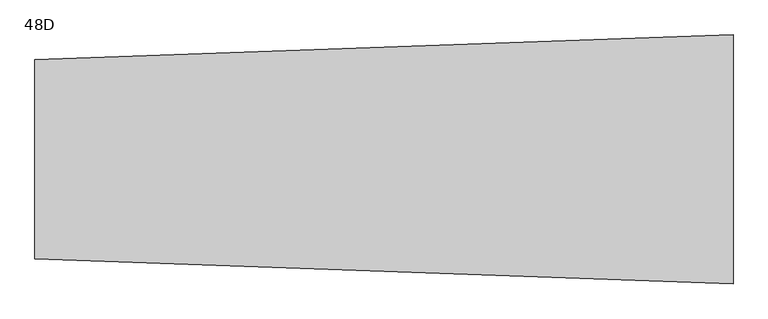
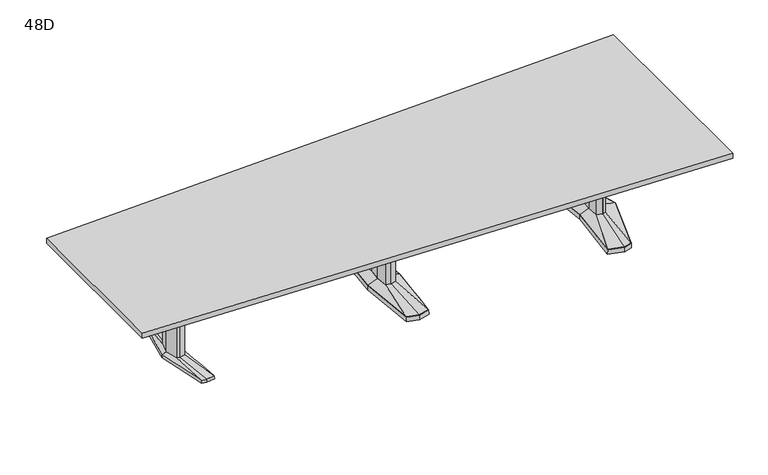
"""IFC4 building model written with IfcOpenShell, lengths in millimetres: furniture geometry, Coalesse_AM_Table_Conference_ETable2_Trapezoid_14ft_AluminiumBase : 48D."""

import ifcopenshell
import ifcopenshell.guid

model = None  # the IFC model being written
_history = None  # IfcOwnerHistory: only IFC2X3 demands one
_inside = {}  # id of a spatial element -> (the spatial element, [elements in it])
_under = {}  # id of a project, library or spatial element -> (it, [spatial elements below it])
_declared = {}  # id of a project -> (the project, [libraries it declares])
_typed = {}  # id of a type object -> (the type object, [elements of that type])
_made_of = {}  # id of a material, layer set ... -> (it, [elements and type objects made of it])


def new_model(schema):
    """Start an empty IFC model of exactly this schema.

    Asked for "IFC4X3", IfcOpenShell would pick the latest addendum, in which some entities
    have other attributes; the version numbers below select the first issue.
    IFC2X3 requires an IfcOwnerHistory on every rooted entity: one is made here for all.
    """
    global model, _history
    if schema == "IFC4X3":
        model = ifcopenshell.file(schema_version=(4, 3, 0, 0))
    else:
        model = ifcopenshell.file(schema=schema)
    _inside.clear()
    _under.clear()
    _declared.clear()
    _typed.clear()
    _made_of.clear()
    _history = None
    if model.schema == "IFC2X3":
        org = make("IfcOrganization", Name="unknown")
        user = make(
            "IfcPersonAndOrganization",
            ThePerson=make("IfcPerson", FamilyName="unknown"),
            TheOrganization=org,
        )
        app = make(
            "IfcApplication",
            ApplicationDeveloper=org,
            Version="unknown",
            ApplicationFullName="unknown",
            ApplicationIdentifier="unknown",
        )
        _history = make(
            "IfcOwnerHistory",
            OwningUser=user,
            OwningApplication=app,
            ChangeAction="ADDED",
            CreationDate=0,
        )
    return model


def make(cls, **values):
    """One entity of the class cls with the attributes given. An attribute that is None is left unset."""
    return model.create_entity(
        cls, **{name: value for name, value in values.items() if value is not None}
    )


def rooted(cls, **values):
    """An entity with a GlobalId (a new one), such as an element, a storey or a relation."""
    return make(cls, GlobalId=ifcopenshell.guid.new(), OwnerHistory=_history, **values)


def si_unit(unit_type, name, prefix=None):
    """IfcSIUnit, for example si_unit("LENGTHUNIT", "METRE", prefix="MILLI")."""
    return make("IfcSIUnit", UnitType=unit_type, Prefix=prefix, Name=name)


def assignment(units):
    """IfcUnitAssignment: the units of a project."""
    return None if units is None else make("IfcUnitAssignment", Units=units)


def point(xyz):
    """IfcCartesianPoint."""
    return None if xyz is None else make("IfcCartesianPoint", Coordinates=xyz)


def direction(xyz):
    """IfcDirection."""
    return None if xyz is None else make("IfcDirection", DirectionRatios=xyz)


def frame(location, z_axis=None, x_axis=None):
    """IfcAxis2Placement3D, a coordinate frame: its origin and axes. An axis left out is left unset."""
    return make(
        "IfcAxis2Placement3D",
        Location=point(location),
        Axis=direction(z_axis),
        RefDirection=direction(x_axis),
    )


def origin():
    """The frame at (0, 0, 0) with its axes left unset."""
    return frame((0.0, 0.0, 0.0))


def place(relative_to, where):
    """IfcLocalPlacement: puts the frame where relative to a parent placement (None: the world)."""
    return make(
        "IfcLocalPlacement", PlacementRelTo=relative_to, RelativePlacement=where
    )


def context(
    kind, dimensions, precision=None, world=None, true_north=None, identifier=None
):
    """IfcGeometricRepresentationContext, for example the 3D "Model" context."""
    return make(
        "IfcGeometricRepresentationContext",
        ContextIdentifier=identifier,
        ContextType=kind,
        CoordinateSpaceDimension=dimensions,
        Precision=precision,
        WorldCoordinateSystem=world,
        TrueNorth=true_north,
    )


def project(units=None, contexts=None):
    """IfcProject with its units and contexts."""
    return rooted(
        "IfcProject",
        Name="project",
        RepresentationContexts=contexts,
        UnitsInContext=assignment(units),
    )


def spatial(cls, under=None, at=None, **own):
    """A site, building, storey or space (cls), placed at a placement, below another one or the project."""
    s = rooted(cls, ObjectPlacement=at, **own)
    if under is not None:
        _under.setdefault(under.id(), (under, []))[1].append(s)
    return s


def polyline(points):
    """IfcPolyline through the points."""
    return make("IfcPolyline", Points=[point(p) for p in points])


def outline(outer, holes=None, kind="AREA"):
    """IfcArbitraryClosedProfileDef: a profile drawn as a closed curve; with holes, ...WithVoids."""
    if holes is None:
        return make("IfcArbitraryClosedProfileDef", ProfileType=kind, OuterCurve=outer)
    return make(
        "IfcArbitraryProfileDefWithVoids",
        ProfileType=kind,
        OuterCurve=outer,
        InnerCurves=holes,
    )


def extrude(swept, where, along, depth):
    """IfcExtrudedAreaSolid: the profile swept, set in the frame where, extruded along a direction by depth."""
    return make(
        "IfcExtrudedAreaSolid",
        SweptArea=swept,
        Position=where,
        ExtrudedDirection=direction(along),
        Depth=depth,
    )


def faces_of(points, faces, orient=None, outer=None):
    """IfcFace entities. A face is a list of loops; a loop is a list of indices into points, from 0.

    orient and outer hold one flag for each loop. By default every Orientation is true, the
    first loop of a face is its IfcFaceOuterBound and the others are IfcFaceBound.
    """
    made = []
    for i, loops in enumerate(faces):
        bounds = []
        for j, loop in enumerate(loops):
            is_outer = j == 0 if outer is None else outer[i][j]
            bounds.append(
                make(
                    "IfcFaceOuterBound" if is_outer else "IfcFaceBound",
                    Bound=make("IfcPolyLoop", Polygon=[points[k] for k in loop]),
                    Orientation=True if orient is None else orient[i][j],
                )
            )
        made.append(make("IfcFace", Bounds=bounds))
    return made


def faceted_brep(points, faces, orient=None, outer=None, voids=None):
    """IfcFacetedBrep: a solid bounded by flat faces; with voids (closed shells), ...WithVoids."""
    shared = [point(p) for p in points]
    hull = make("IfcClosedShell", CfsFaces=faces_of(shared, faces, orient, outer))
    if voids is None:
        return make("IfcFacetedBrep", Outer=hull)
    return make(
        "IfcFacetedBrepWithVoids",
        Outer=hull,
        Voids=[
            make(cls, CfsFaces=faces_of(shared, fs, o, b)) for cls, fs, o, b in voids
        ],
    )


def shape(context_of_items, identifier, shape_type, items):
    """IfcShapeRepresentation: the items that make up one representation, for example the "Body"."""
    return make(
        "IfcShapeRepresentation",
        ContextOfItems=context_of_items,
        RepresentationIdentifier=identifier,
        RepresentationType=shape_type,
        Items=items,
    )


def source(mapping_origin, context_of_items, identifier, shape_type, items):
    """IfcRepresentationMap: a shape defined once, which mapped items show again and again."""
    return make(
        "IfcRepresentationMap",
        MappingOrigin=mapping_origin,
        MappedRepresentation=shape(context_of_items, identifier, shape_type, items),
    )


def transform(
    local_origin,
    x_axis=None,
    y_axis=None,
    z_axis=None,
    scale=None,
    scale2=None,
    scale3=None,
    uniform=True,
):
    """IfcCartesianTransformationOperator3D, or its non-uniform kind. x_axis, y_axis, z_axis: its Axis1, 2, 3."""
    if uniform:
        return make(
            "IfcCartesianTransformationOperator3D",
            Axis1=direction(x_axis),
            Axis2=direction(y_axis),
            LocalOrigin=point(local_origin),
            Scale=scale,
            Axis3=direction(z_axis),
        )
    return make(
        "IfcCartesianTransformationOperator3DnonUniform",
        Axis1=direction(x_axis),
        Axis2=direction(y_axis),
        LocalOrigin=point(local_origin),
        Scale=scale,
        Axis3=direction(z_axis),
        Scale2=scale2,
        Scale3=scale3,
    )


def mapped(mapping_source, mapping_target):
    """IfcMappedItem: shows the shape of a source again, moved by a transform."""
    return make(
        "IfcMappedItem", MappingSource=mapping_source, MappingTarget=mapping_target
    )


def made_of(thing, what):
    """Note that an element or type object is made of a material, layer set ...; save() writes the relation."""
    if what is not None:
        _made_of.setdefault(what.id(), (what, []))[1].append(thing)
    return thing


def element(
    cls,
    number,
    at=None,
    inside=None,
    cuts=None,
    type_object=None,
    material=None,
    context=None,
    identifier="Body",
    shape_type=None,
    held_by="IfcProductDefinitionShape",
    body=None,
    shapes=None,
    **own,
):
    """One element of the class cls, such as IfcWall. Its Tag is "e" and its number.

    at: its placement. inside: the storey or other place that contains it. cuts: it is an
    opening in that element (IfcRelVoidsElement). A single representation is given by context,
    identifier, shape_type and body (its items); several are given by shapes. held_by: the class
    of the entity that holds the representations. save() writes the other relations.
    """
    e = rooted(cls, Tag="e%d" % number, ObjectPlacement=at, **own)
    if body is not None:
        shapes = [shape(context, identifier, shape_type, body)]
    if shapes is not None:
        e.Representation = make(held_by, Representations=shapes)
    if inside is not None:
        _inside.setdefault(inside.id(), (inside, []))[1].append(e)
    if cuts is not None:
        rooted(
            "IfcRelVoidsElement", RelatingBuildingElement=cuts, RelatedOpeningElement=e
        )
    if type_object is not None:
        _typed.setdefault(type_object.id(), (type_object, []))[1].append(e)
    return made_of(e, material)


def aggregate(whole, parts):
    """IfcRelAggregates: a whole, such as a stair, and the parts it consists of."""
    return rooted("IfcRelAggregates", RelatingObject=whole, RelatedObjects=parts)


def save(model, path):
    """Write the relations noted so far, then the file.

    IfcRelAggregates (storeys below a building ...), IfcRelContainedInSpatialStructure (elements
    in a storey), IfcRelDefinesByType, IfcRelAssociatesMaterial and IfcRelDeclares: one each for
    every whole, place, type object, material and project.
    """
    for whole, parts in _under.values():
        aggregate(whole, parts)
    for where, things in _inside.values():
        rooted(
            "IfcRelContainedInSpatialStructure",
            RelatedElements=things,
            RelatingStructure=where,
        )
    for kind, things in _typed.values():
        rooted("IfcRelDefinesByType", RelatedObjects=things, RelatingType=kind)
    for what, things in _made_of.values():
        rooted("IfcRelAssociatesMaterial", RelatedObjects=things, RelatingMaterial=what)
    for by, libraries in _declared.values():
        rooted("IfcRelDeclares", RelatingContext=by, RelatedDefinitions=libraries)
    model.write(path)


def plane_surface(at):
    """IfcPlane: the flat surface through the origin of the frame at, square to its z axis."""
    return make("IfcPlane", Position=at)


def spline_surface(u_degree, v_degree, points, u_multiplicities, v_multiplicities, u_knots, v_knots, weights=None):
    """IfcBSplineSurfaceWithKnots; with weights, IfcRationalBSplineSurfaceWithKnots. points: one row for each step in u."""
    own = dict(
        UDegree=u_degree,
        VDegree=v_degree,
        ControlPointsList=[[point(p) for p in row] for row in points],
        SurfaceForm="UNSPECIFIED",
        UClosed=False,
        VClosed=False,
        SelfIntersect=False,
        UMultiplicities=u_multiplicities,
        VMultiplicities=v_multiplicities,
        UKnots=u_knots,
        VKnots=v_knots,
        KnotSpec="UNSPECIFIED",
    )
    if weights is None:
        return make("IfcBSplineSurfaceWithKnots", **own)
    return make("IfcRationalBSplineSurfaceWithKnots", WeightsData=weights, **own)


def advanced_brep(points, edges, surfaces, faces):
    """IfcAdvancedBrep: a solid bounded by faces that lie on surfaces and meet in shared edges.

    An edge is (start, end): straight between two places in points (the first is 0);
    or (start, end, curve); or (start, end, curve, False) where it runs against its curve.
    A face is (place in surfaces, loops), or (place, loops, False) where it looks against
    its surface's normal. A loop lists edges by number (the first is 1), with a minus sign
    where the edge is run from its end to its start. The first loop is the outer one.
    """
    corners = [point(p) for p in points]
    vertices = [make("IfcVertexPoint", VertexGeometry=c) for c in corners]
    made = []
    for start, end, *more in edges:
        made.append(
            make(
                "IfcEdgeCurve",
                EdgeStart=vertices[start],
                EdgeEnd=vertices[end],
                EdgeGeometry=more[0] if more else make("IfcPolyline", Points=[corners[start], corners[end]]),
                SameSense=more[1] if len(more) > 1 else True,
            )
        )
    hull = []
    for where, loops, *sense in faces:
        bounds = []
        for j, loop in enumerate(loops):
            ring = [make("IfcOrientedEdge", EdgeElement=made[abs(k) - 1], Orientation=k > 0) for k in loop]
            bounds.append(
                make(
                    "IfcFaceOuterBound" if j == 0 else "IfcFaceBound",
                    Bound=make("IfcEdgeLoop", EdgeList=ring),
                    Orientation=True,
                )
            )
        hull.append(make("IfcAdvancedFace", Bounds=bounds, FaceSurface=surfaces[where], SameSense=sense[0] if sense else True))
    return make("IfcAdvancedBrep", Outer=make("IfcClosedShell", CfsFaces=hull))


def furniture_48d_37bf6c8c(model_context):
    return source(origin(), model_context, "Body", "SolidModel", [
        faceted_brep([(-81.2333791, -433.8053819, 38.1), (0.0, -455.556576, 38.1), (81.2333791, -433.8053819, 38.1), (119.0564774, 0.0, 38.1), (81.2333791, 433.8053819, 38.1), (0.0, 455.556576, 38.1), (-81.2333791, 433.8053819, 38.1), (-119.0564774, 0.0, 38.1), (-82.7182795, -435.0512063, 3.175), (-120.65, 0.0, 3.175), (-82.7182795, 435.0512063, 3.175), (0.0, 457.2, 3.175), (82.7182795, 435.0512063, 3.175), (120.65, 0.0, 3.175), (82.7182795, -435.0512063, 3.175), (0.0, -457.2, 3.175), (0.0, 429.2617927, 3.175), (-77.9676806, 408.3850278, 3.175), (-74.7019821, 382.9646737, 3.175), (0.0, 402.9670094, 3.175), (74.7019821, 382.9646737, 3.175), (77.9676806, 408.3850278, 3.175), (0.0, -429.2617927, 3.175), (77.9676806, -408.3850278, 3.175), (74.7019821, -382.9646737, 3.175), (0.0, -402.9670094, 3.175), (-74.7019821, -382.9646737, 3.175), (-77.9676806, -408.3850278, 3.175), (-71.8574262, 114.6326257, 3.175), (-82.5426076, 0.0, 3.175), (-71.8574262, -114.6326257, 3.175), (0.0, -133.8761372, 3.175), (71.8574262, -114.6326257, 3.175), (82.5426076, 0.0, 3.175), (71.8574262, 114.6326257, 3.175), (0.0, 133.8761372, 3.175), (0.0, 429.2617927, 0.0), (77.9676806, 408.3850278, 0.0), (74.7019821, 382.9646737, 0.0), (0.0, 402.9670094, 0.0), (-74.7019821, 382.9646737, 0.0), (-77.9676806, 408.3850278, 0.0), (0.0, -429.2617927, 0.0), (-77.9676806, -408.3850278, 0.0), (-74.7019821, -382.9646737, 0.0), (0.0, -402.9670094, 0.0), (74.7019821, -382.9646737, 0.0), (77.9676806, -408.3850278, 0.0), (-71.8574262, 114.6326257, 0.0), (0.0, 133.8761372, 0.0), (71.8574262, 114.6326257, 0.0), (82.5426076, 0.0, 0.0), (71.8574262, -114.6326257, 0.0), (0.0, -133.8761372, 0.0), (-71.8574262, -114.6326257, 0.0), (-82.5426076, 0.0, 0.0)], [[[0, 1, 2, 3, 4, 5, 6, 7]], [[8, 9, 10, 11, 12, 13, 14, 15], [16, 17, 18, 19, 20, 21], [22, 23, 24, 25, 26, 27], [28, 29, 30, 31, 32, 33, 34, 35]], [[1, 0, 8, 15]], [[2, 1, 15, 14]], [[3, 2, 14, 13]], [[4, 3, 13, 12]], [[5, 4, 12, 11]], [[6, 5, 11, 10]], [[7, 6, 10, 9]], [[0, 7, 9, 8]], [[36, 37, 38, 39, 40, 41]], [[42, 43, 44, 45, 46, 47]], [[48, 49, 50, 51, 52, 53, 54, 55]], [[36, 41, 17, 16]], [[41, 40, 18, 17]], [[40, 39, 19, 18]], [[39, 38, 20, 19]], [[38, 37, 21, 20]], [[37, 36, 16, 21]], [[42, 47, 23, 22]], [[47, 46, 24, 23]], [[46, 45, 25, 24]], [[45, 44, 26, 25]], [[44, 43, 27, 26]], [[43, 42, 22, 27]], [[48, 55, 29, 28]], [[55, 54, 30, 29]], [[54, 53, 31, 30]], [[53, 52, 32, 31]], [[52, 51, 33, 32]], [[51, 50, 34, 33]], [[50, 49, 35, 34]], [[49, 48, 28, 35]]]),
        faceted_brep([(-36.3832834, 84.6900825, 698.5), (-44.2774487, 0.0, 698.5), (-36.3832834, -84.6900825, 698.5), (0.0, -94.4335728, 698.5), (36.3832834, -84.6900825, 698.5), (44.2774487, 0.0, 698.5), (36.3832834, 84.6900825, 698.5), (0.0, 94.4335728, 698.5), (-36.3832834, 84.6900825, 63.5), (0.0, 94.4335728, 63.5), (36.3832834, 84.6900825, 63.5), (44.2774487, 0.0, 63.5), (36.3832834, -84.6900825, 63.5), (0.0, -94.4335728, 63.5), (-36.3832834, -84.6900825, 63.5), (-44.2774487, 0.0, 63.5)], [[[0, 1, 2, 3, 4, 5, 6, 7]], [[8, 9, 10, 11, 12, 13, 14, 15]], [[1, 0, 8, 15]], [[2, 1, 15, 14]], [[3, 2, 14, 13]], [[4, 3, 13, 12]], [[5, 4, 12, 11]], [[6, 5, 11, 10]], [[7, 6, 10, 9]], [[0, 7, 9, 8]]]),
        advanced_brep(
        [(-36.3832834, 84.6900825, 63.5), (-44.2774487, 0.0, 63.5), (-36.3832834, -84.6900825, 63.5), (0.0, -94.4335728, 63.5), (36.3832834, -84.6900825, 63.5), (44.2774487, 0.0, 63.5), (36.3832834, 84.6900825, 63.5), (0.0, 94.4335728, 63.5), (-81.2333791, 433.8053819, 38.1), (0.0, 455.556576, 38.1), (81.2333791, 433.8053819, 38.1), (119.0564774, 0.0, 38.1), (81.2333791, -433.8053819, 38.1), (0.0, -455.556576, 38.1), (-81.2333791, -433.8053819, 38.1), (-119.0564774, 0.0, 38.1)],
        [
            (0, 1),
            (1, 2),
            (2, 3),
            (3, 4),
            (4, 5),
            (5, 6),
            (6, 7),
            (7, 0),
            (8, 9),
            (9, 10),
            (10, 11),
            (11, 12),
            (12, 13),
            (13, 14),
            (14, 15),
            (15, 8),
            (15, 1),
            (0, 8),
            (14, 2),
            (13, 3),
            (12, 4),
            (11, 5),
            (10, 6),
            (9, 7),
        ],
        [
            plane_surface(frame((0.0, 0.0, 63.5), z_axis=(0.0, 0.0, 1.0000000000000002), x_axis=(-0.9659615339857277, -0.25868574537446, 0.0))),
            plane_surface(frame((0.0, 0.0, 38.1), z_axis=(0.0, 0.0, -1.0000000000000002), x_axis=(-0.9659615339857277, -0.25868574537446, 0.0))),
            spline_surface(1, 1, [[(-81.2333791, 433.8053819, 38.1), (-36.3832834, 84.6900825, 63.5)], [(-119.0564774, 0.0, 38.1), (-44.2774487, 0.0, 63.5)]], [2, 2], [2, 2], [0.0, 1.0], [0.0, 1.0]),
            spline_surface(1, 1, [[(-119.0564774, 0.0, 38.1), (-44.2774487, 0.0, 63.5)], [(-81.2333791, -433.8053819, 38.1), (-36.3832834, -84.6900825, 63.5)]], [2, 2], [2, 2], [0.0, 1.0], [0.0, 1.0]),
            spline_surface(1, 1, [[(-81.2333791, -433.8053819, 38.1), (-36.3832834, -84.6900825, 63.5)], [(0.0, -455.556576, 38.1), (0.0, -94.4335728, 63.5)]], [2, 2], [2, 2], [0.0, 1.0], [0.0, 1.0]),
            spline_surface(1, 1, [[(0.0, -455.556576, 38.1), (0.0, -94.4335728, 63.5)], [(81.2333791, -433.8053819, 38.1), (36.3832834, -84.6900825, 63.5)]], [2, 2], [2, 2], [0.0, 1.0], [0.0, 1.0]),
            spline_surface(1, 1, [[(81.2333791, -433.8053819, 38.1), (36.3832834, -84.6900825, 63.5)], [(119.0564774, 0.0, 38.1), (44.2774487, 0.0, 63.5)]], [2, 2], [2, 2], [0.0, 1.0], [0.0, 1.0]),
            spline_surface(1, 1, [[(119.0564774, 0.0, 38.1), (44.2774487, 0.0, 63.5)], [(81.2333791, 433.8053819, 38.1), (36.3832834, 84.6900825, 63.5)]], [2, 2], [2, 2], [0.0, 1.0], [0.0, 1.0]),
            spline_surface(1, 1, [[(81.2333791, 433.8053819, 38.1), (36.3832834, 84.6900825, 63.5)], [(0.0, 455.556576, 38.1), (0.0, 94.4335728, 63.5)]], [2, 2], [2, 2], [0.0, 1.0], [0.0, 1.0]),
            spline_surface(1, 1, [[(0.0, 455.556576, 38.1), (0.0, 94.4335728, 63.5)], [(-81.2333791, 433.8053819, 38.1), (-36.3832834, 84.6900825, 63.5)]], [2, 2], [2, 2], [0.0, 1.0], [0.0, 1.0]),
        ],
        [
            (0, [[1, 2, 3, 4, 5, 6, 7, 8]]),
            (1, [[9, 10, 11, 12, 13, 14, 15, 16]]),
            (2, [[-16, 17, -1, 18]]),
            (3, [[-15, 19, -2, -17]]),
            (4, [[-14, 20, -3, -19]]),
            (5, [[-13, 21, -4, -20]]),
            (6, [[-12, 22, -5, -21]]),
            (7, [[-11, 23, -6, -22]]),
            (8, [[-10, 24, -7, -23]]),
            (9, [[-9, -18, -8, -24]]),
        ],
    ),
        advanced_brep(
        [(-1526.8690971, -379.3768856, 25.4), (-1560.9982754, -94.605478, 36.5125), (-1580.2514743, -89.293702, 36.5125), (-1556.5944136, -371.5332654, 25.4), (-1463.7800038, -368.5071562, 25.4), (-1518.0708501, -87.0529327, 36.5125), (-1491.8577254, 0.3970149, 25.4), (-1509.9551707, 0.0, 36.5125), (-1463.7802502, 368.5172593, 25.4), (-1518.0708501, 87.0529327, 36.5125), (-1526.8689733, 379.3769183, 25.4), (-1560.9982754, 94.605478, 36.5125), (-1556.7722958, 371.4863276, 25.4), (-1580.2514743, 89.293702, 36.5125), (-1633.5039163, 0.0003516, 25.4), (-1604.1782751, 0.0, 36.5125), (-1490.2656242, 0.3968871, 3.175), (-1462.0875, -369.8264415, 3.175), (-1526.9400504, -381.0, 3.175), (-1557.9497317, -372.8174744, 3.175), (-1635.125, 0.0, 3.175), (-1558.1280745, 372.7704151, 3.175), (-1526.9400504, 381.0, 3.175), (-1462.0875, 369.8367279, 3.175), (-1561.6166764, 107.6121478, 3.175), (-1590.6370973, 99.6056872, 3.175), (-1617.3270585, 0.0, 3.175), (-1590.6370973, -99.6056872, 3.175), (-1561.6166764, -107.6121478, 3.175), (-1506.3252951, -97.8843184, 3.175), (-1497.1998387, 0.0, 3.175), (-1506.3252951, 97.8843184, 3.175), (-1525.4474312, 346.9152841, 3.175), (-1559.5732026, 337.9105158, 3.175), (-1560.6913109, 324.4807859, 3.175), (-1524.8788144, 333.9306305, 3.175), (-1472.2077418, 324.8641942, 3.175), (-1469.7998871, 337.3364985, 3.175), (-1525.4474312, -346.9152841, 3.175), (-1469.7998871, -337.3364985, 3.175), (-1472.2077418, -324.8641942, 3.175), (-1524.8788144, -333.9306305, 3.175), (-1560.6913109, -324.4807859, 3.175), (-1559.5732026, -337.9105158, 3.175), (-1561.6166764, 107.6121478, 0.0), (-1506.3252951, 97.8843184, 0.0), (-1497.1998387, 0.0, 0.0), (-1506.3252951, -97.8843184, 0.0), (-1561.6166764, -107.6121478, 0.0), (-1590.6370973, -99.6056872, 0.0), (-1617.3270585, 0.0, 0.0), (-1590.6370973, 99.6056872, 0.0), (-1525.4474312, 346.9152841, 0.0), (-1469.7998871, 337.3364985, 0.0), (-1472.2077418, 324.8641942, 0.0), (-1524.8788144, 333.9306305, 0.0), (-1560.6913109, 324.4807859, 0.0), (-1559.5732026, 337.9105158, 0.0), (-1525.4474312, -346.9152841, 0.0), (-1559.5732026, -337.9105158, 0.0), (-1560.6913109, -324.4807859, 0.0), (-1524.8788144, -333.9306305, 0.0), (-1472.2077418, -324.8641942, 0.0), (-1469.7998871, -337.3364985, 0.0), (-1580.2514743, 89.293702, 698.5), (-1604.1782751, 0.0, 698.5), (-1580.2514743, -89.293702, 698.5), (-1560.9982754, -94.605478, 698.5), (-1518.0708501, -87.0529327, 698.5), (-1509.9551707, 0.0, 698.5), (-1518.0708501, 87.0529327, 698.5), (-1560.9982754, 94.605478, 698.5)],
        [
            (0, 1),
            (1, 2),
            (2, 3),
            (3, 0),
            (0, 4),
            (4, 5),
            (5, 1),
            (4, 6),
            (6, 7),
            (7, 5),
            (6, 8),
            (8, 9),
            (9, 7),
            (8, 10),
            (10, 11),
            (11, 9),
            (10, 12),
            (12, 13),
            (13, 11),
            (12, 14),
            (14, 15),
            (15, 13),
            (2, 15),
            (14, 3),
            (16, 17),
            (17, 18),
            (18, 19),
            (19, 20),
            (20, 21),
            (21, 22),
            (22, 23),
            (23, 16),
            (24, 25),
            (25, 26),
            (26, 27),
            (27, 28),
            (28, 29),
            (29, 30),
            (30, 31),
            (31, 24),
            (32, 33),
            (33, 34),
            (34, 35),
            (35, 36),
            (36, 37),
            (37, 32),
            (38, 39),
            (39, 40),
            (40, 41),
            (41, 42),
            (42, 43),
            (43, 38),
            (23, 8),
            (6, 16),
            (22, 10),
            (21, 12),
            (20, 14),
            (19, 3),
            (18, 0),
            (17, 4),
            (44, 45),
            (45, 46),
            (46, 47),
            (47, 48),
            (48, 49),
            (49, 50),
            (50, 51),
            (51, 44),
            (52, 53),
            (53, 54),
            (54, 55),
            (55, 56),
            (56, 57),
            (57, 52),
            (58, 59),
            (59, 60),
            (60, 61),
            (61, 62),
            (62, 63),
            (63, 58),
            (51, 25),
            (24, 44),
            (50, 26),
            (49, 27),
            (48, 28),
            (47, 29),
            (46, 30),
            (45, 31),
            (57, 33),
            (32, 52),
            (56, 34),
            (55, 35),
            (54, 36),
            (53, 37),
            (63, 39),
            (38, 58),
            (62, 40),
            (61, 41),
            (60, 42),
            (59, 43),
            (64, 65),
            (65, 66),
            (66, 67),
            (67, 68),
            (68, 69),
            (69, 70),
            (70, 71),
            (71, 64),
            (64, 13),
            (15, 65),
            (2, 66),
            (1, 67),
            (5, 68),
            (7, 69),
            (9, 70),
            (11, 71),
        ],
        [
            spline_surface(1, 1, [[(-1556.5944136, -371.5332654, 25.4), (-1580.2514743, -89.293702, 36.5125)], [(-1526.8690971, -379.3768856, 25.4), (-1560.9982754, -94.605478, 36.5125)]], [2, 2], [2, 2], [0.0, 1.0], [0.0, 1.0]),
            spline_surface(1, 1, [[(-1526.8690971, -379.3768856, 25.4), (-1560.9982754, -94.605478, 36.5125)], [(-1463.7800038, -368.5071562, 25.4), (-1518.0708501, -87.0529327, 36.5125)]], [2, 2], [2, 2], [0.0, 1.0], [0.0, 1.0]),
            spline_surface(1, 1, [[(-1463.7800038, -368.5071562, 25.4), (-1518.0708501, -87.0529327, 36.5125)], [(-1491.8577254, 0.3970149, 25.4), (-1509.9551707, 0.0, 36.5125)]], [2, 2], [2, 2], [0.0, 1.0], [0.0, 1.0]),
            spline_surface(1, 1, [[(-1491.8577254, 0.3970149, 25.4), (-1509.9551707, 0.0, 36.5125)], [(-1463.7802502, 368.5172593, 25.4), (-1518.0708501, 87.0529327, 36.5125)]], [2, 2], [2, 2], [0.0, 1.0], [0.0, 1.0]),
            spline_surface(1, 1, [[(-1463.7802502, 368.5172593, 25.4), (-1518.0708501, 87.0529327, 36.5125)], [(-1526.8689733, 379.3769183, 25.4), (-1560.9982754, 94.605478, 36.5125)]], [2, 2], [2, 2], [0.0, 1.0], [0.0, 1.0]),
            spline_surface(1, 1, [[(-1526.8689733, 379.3769183, 25.4), (-1560.9982754, 94.605478, 36.5125)], [(-1556.7722958, 371.4863276, 25.4), (-1580.2514743, 89.293702, 36.5125)]], [2, 2], [2, 2], [0.0, 1.0], [0.0, 1.0]),
            spline_surface(1, 1, [[(-1556.7722958, 371.4863276, 25.4), (-1580.2514743, 89.293702, 36.5125)], [(-1633.5039163, 0.0003516, 25.4), (-1604.1782751, 0.0, 36.5125)]], [2, 2], [2, 2], [0.0, 1.0], [0.0, 1.0]),
            spline_surface(1, 1, [[(-1633.5039163, 0.0003516, 25.4), (-1604.1782751, 0.0, 36.5125)], [(-1556.5944136, -371.5332654, 25.4), (-1580.2514743, -89.293702, 36.5125)]], [2, 2], [2, 2], [0.0, 1.0], [0.0, 1.0]),
            plane_surface(frame((-1527.4404414, 0.0450143, 3.175), z_axis=(0.0, 0.0, -1.0), x_axis=(0.9669048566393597, -0.2551372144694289, 0.0))),
            plane_surface(frame((-1476.1765621, 185.1168075, 3.175), z_axis=(0.9945699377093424, -0.07585840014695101, 0.0712470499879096), x_axis=(0.07605167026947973, 0.9971038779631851, 0.0))),
            plane_surface(frame((-1494.5137752, 375.418364, 3.175), z_axis=(0.1692071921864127, 0.9830019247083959, 0.07124704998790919), x_axis=(-0.985506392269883, 0.16963829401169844, 0.0))),
            plane_surface(frame((-1542.5340624, 376.8852076, 3.175), z_axis=(-0.2544888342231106, 0.9644476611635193, 0.07124704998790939), x_axis=(-0.9669048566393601, -0.25513721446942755, 0.0))),
            plane_surface(frame((-1596.6265372, 186.3852076, 3.175), z_axis=(-0.9768383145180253, 0.2017690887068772, 0.07124704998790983), x_axis=(-0.20228315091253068, -0.9793270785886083, 0.0))),
            plane_surface(frame((-1596.5373658, -186.4087372, 3.175), z_axis=(-0.9767507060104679, -0.20219276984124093, 0.07124704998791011), x_axis=(0.2027079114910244, -0.9792392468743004, 0.0))),
            plane_surface(frame((-1542.444891, -376.9087372, 3.175), z_axis=(-0.2544888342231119, -0.9644476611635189, 0.0712470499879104), x_axis=(0.9669048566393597, -0.2551372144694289, 0.0))),
            plane_surface(frame((-1494.5137752, -375.4132207, 3.175), z_axis=(0.16935861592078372, -0.982975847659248, 0.07124704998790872), x_axis=(0.9854802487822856, 0.16979010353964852, 0.0))),
            plane_surface(frame((-1476.1765621, -184.7147772, 3.175), z_axis=(0.9945820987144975, 0.07569878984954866, 0.07124704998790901), x_axis=(-0.07589165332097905, 0.9971160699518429, 0.0))),
            plane_surface(frame((-1564.3758979, 106.8509046, 0.0), z_axis=(0.0, 0.0, -1.0000000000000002), x_axis=(0.9639855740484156, 0.26595453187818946, 0.0))),
            plane_surface(frame((-1561.6166764, 107.6121478, 3.175), z_axis=(-0.26595453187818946, 0.9639855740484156, 0.0), x_axis=(0.0, 0.0, -1.0))),
            plane_surface(frame((-1590.6370973, 99.6056872, 3.175), z_axis=(-0.9659241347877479, 0.2588253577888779, 0.0), x_axis=(0.0, 0.0, -1.0))),
            plane_surface(frame((-1617.3270585, 0.0, 3.175), z_axis=(-0.9659241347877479, -0.2588253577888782, 0.0), x_axis=(0.0, 0.0, -1.0))),
            plane_surface(frame((-1590.6370973, -99.6056872, 3.175), z_axis=(-0.26595453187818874, -0.9639855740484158, 0.0), x_axis=(0.0, 0.0, -1.0))),
            plane_surface(frame((-1561.6166764, -107.6121478, 3.175), z_axis=(0.17327617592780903, -0.9848732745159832, 0.0), x_axis=(0.0, 0.0, -1.0))),
            plane_surface(frame((-1506.3252951, -97.8843184, 3.175), z_axis=(0.9956824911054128, -0.0928244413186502, 0.0), x_axis=(0.0, 0.0, -1.0))),
            plane_surface(frame((-1497.1998387, 0.0, 3.175), z_axis=(0.9956824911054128, 0.09282444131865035, 0.0), x_axis=(0.0, 0.0, -1.0))),
            plane_surface(frame((-1506.3252951, 97.8843184, 3.175), z_axis=(0.17327617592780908, 0.984873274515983, 0.0), x_axis=(0.0, 0.0, -1.0))),
            plane_surface(frame((-1525.4474312, 346.9152841, 3.175), z_axis=(-0.25513721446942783, 0.9669048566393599, 0.0), x_axis=(0.0, 0.0, -1.0))),
            plane_surface(frame((-1559.5732026, 337.9105158, 3.175), z_axis=(-0.9965521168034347, 0.0829691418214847, 0.0), x_axis=(0.0, 0.0, -1.0))),
            plane_surface(frame((-1560.6913109, 324.4807859, 3.175), z_axis=(0.25513721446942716, -0.9669048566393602, 0.0), x_axis=(0.0, 0.0, -1.0))),
            plane_surface(frame((-1524.8788144, 333.9306305, 3.175), z_axis=(-0.16963829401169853, -0.985506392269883, 0.0), x_axis=(0.0, 0.0, -1.0))),
            plane_surface(frame((-1472.2077418, 324.8641942, 3.175), z_axis=(0.9818699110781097, -0.18955600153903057, 0.0), x_axis=(0.0, 0.0, -1.0))),
            plane_surface(frame((-1469.7998871, 337.3364985, 3.175), z_axis=(0.16963829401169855, 0.9855063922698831, 0.0), x_axis=(0.0, 0.0, -1.0))),
            plane_surface(frame((-1525.4474312, -346.9152841, 3.175), z_axis=(0.1696382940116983, -0.9855063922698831, 0.0), x_axis=(0.0, 0.0, -1.0))),
            plane_surface(frame((-1469.7998871, -337.3364985, 3.175), z_axis=(0.9818699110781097, 0.18955600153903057, 0.0), x_axis=(0.0, 0.0, -1.0))),
            plane_surface(frame((-1472.2077418, -324.8641942, 3.175), z_axis=(-0.16963829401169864, 0.985506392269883, 0.0), x_axis=(0.0, 0.0, -1.0))),
            plane_surface(frame((-1524.8788144, -333.9306305, 3.175), z_axis=(0.2551372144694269, 0.9669048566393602, 0.0), x_axis=(0.0, 0.0, -1.0))),
            plane_surface(frame((-1560.6913109, -324.4807859, 3.175), z_axis=(-0.9965521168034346, -0.0829691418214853, 0.0), x_axis=(0.0, 0.0, -1.0))),
            plane_surface(frame((-1559.5732026, -337.9105158, 3.175), z_axis=(-0.2551372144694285, -0.9669048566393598, 0.0), x_axis=(0.0, 0.0, -1.0))),
            plane_surface(frame((-1604.1782751, 0.0, 698.5), z_axis=(0.0, 0.0, 1.0), x_axis=(-0.25882535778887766, -0.965924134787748, 0.0))),
            plane_surface(frame((-1580.2514743, 89.293702, 698.5), z_axis=(-0.965924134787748, 0.25882535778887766, 0.0), x_axis=(0.0, 0.0, -1.0))),
            plane_surface(frame((-1604.1782751, 0.0, 698.5), z_axis=(-0.965924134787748, -0.2588253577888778, 0.0), x_axis=(0.0, 0.0, -1.0))),
            plane_surface(frame((-1580.2514743, -89.293702, 698.5), z_axis=(-0.2659545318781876, -0.963985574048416, 0.0), x_axis=(0.0, 0.0, -1.0))),
            plane_surface(frame((-1560.9982754, -94.605478, 698.5), z_axis=(0.1732761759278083, -0.9848732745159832, 0.0), x_axis=(0.0, 0.0, -1.0))),
            plane_surface(frame((-1518.0708501, -87.0529327, 698.5), z_axis=(0.9956824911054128, -0.0928244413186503, 0.0), x_axis=(0.0, 0.0, -1.0))),
            plane_surface(frame((-1509.9551707, 0.0, 698.5), z_axis=(0.9956824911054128, 0.09282444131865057, 0.0), x_axis=(0.0, 0.0, -1.0))),
            plane_surface(frame((-1518.0708501, 87.0529327, 698.5), z_axis=(0.17327617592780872, 0.9848732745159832, 0.0), x_axis=(0.0, 0.0, -1.0))),
            plane_surface(frame((-1560.9982754, 94.605478, 698.5), z_axis=(-0.26595453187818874, 0.9639855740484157, 0.0), x_axis=(0.0, 0.0, -1.0))),
        ],
        [
            (0, [[1, 2, 3, 4]]),
            (1, [[-1, 5, 6, 7]]),
            (2, [[-6, 8, 9, 10]]),
            (3, [[-9, 11, 12, 13]]),
            (4, [[-12, 14, 15, 16]]),
            (5, [[-15, 17, 18, 19]]),
            (6, [[-18, 20, 21, 22]]),
            (7, [[-3, 23, -21, 24]]),
            (8, [[25, 26, 27, 28, 29, 30, 31, 32], [33, 34, 35, 36, 37, 38, 39, 40], [41, 42, 43, 44, 45, 46], [47, 48, 49, 50, 51, 52]]),
            (9, [[-32, 53, -11, 54]]),
            (10, [[-31, 55, -14, -53]]),
            (11, [[-30, 56, -17, -55]]),
            (12, [[-29, 57, -20, -56]]),
            (13, [[-28, 58, -24, -57]]),
            (14, [[-27, 59, -4, -58]]),
            (15, [[-26, 60, -5, -59]]),
            (16, [[-25, -54, -8, -60]]),
            (17, [[61, 62, 63, 64, 65, 66, 67, 68]]),
            (17, [[69, 70, 71, 72, 73, 74]]),
            (17, [[75, 76, 77, 78, 79, 80]]),
            (18, [[-68, 81, -33, 82]]),
            (19, [[-67, 83, -34, -81]]),
            (20, [[-66, 84, -35, -83]]),
            (21, [[-65, 85, -36, -84]]),
            (22, [[-64, 86, -37, -85]]),
            (23, [[-63, 87, -38, -86]]),
            (24, [[-62, 88, -39, -87]]),
            (25, [[-61, -82, -40, -88]]),
            (26, [[-74, 89, -41, 90]]),
            (27, [[-73, 91, -42, -89]]),
            (28, [[-72, 92, -43, -91]]),
            (29, [[-71, 93, -44, -92]]),
            (30, [[-70, 94, -45, -93]]),
            (31, [[-69, -90, -46, -94]]),
            (32, [[-80, 95, -47, 96]]),
            (33, [[-79, 97, -48, -95]]),
            (34, [[-78, 98, -49, -97]]),
            (35, [[-77, 99, -50, -98]]),
            (36, [[-76, 100, -51, -99]]),
            (37, [[-75, -96, -52, -100]]),
            (38, [[101, 102, 103, 104, 105, 106, 107, 108]]),
            (39, [[-101, 109, -22, 110]]),
            (40, [[-102, -110, -23, 111]]),
            (41, [[-103, -111, -2, 112]]),
            (42, [[-104, -112, -7, 113]]),
            (43, [[-105, -113, -10, 114]]),
            (44, [[-106, -114, -13, 115]]),
            (45, [[-107, -115, -16, 116]]),
            (46, [[-108, -116, -19, -109]]),
        ],
    ),
        faceted_brep([(1515.4306835, 455.5848221, 38.1), (1405.8531277, 426.2263816, 38.1), (1447.0163717, 0.0, 38.1), (1405.8531277, -426.2263816, 38.1), (1515.4306835, -455.5848221, 38.1), (1571.5570396, -440.5478297, 38.1), (1708.8684269, 0.0, 38.1), (1571.5570396, 440.5478297, 38.1), (1515.4306754, 457.2283104, 3.175), (1572.8124472, 441.8549756, 3.175), (1710.53125, 0.0, 3.175), (1572.8124472, -441.8549756, 3.175), (1515.4306754, -457.2283104, 3.175), (1404.14375, -427.4118891, 3.175), (1445.4214856, 0.0, 3.175), (1404.14375, 427.4118891, 3.175), (1519.020115, 428.3273875, 3.175), (1413.9718228, 402.1057253, 3.175), (1422.090518, 377.985069, 3.175), (1522.6095466, 401.0699529, 3.175), (1573.1691725, 387.524361, 3.175), (1572.3631061, 414.0360954, 3.175), (1519.020115, -428.3273875, 3.175), (1572.3631061, -414.0360954, 3.175), (1573.1691725, -387.524361, 3.175), (1522.6095466, -401.0699529, 3.175), (1422.090518, -377.985069, 3.175), (1413.9718228, -402.1057253, 3.175), (1645.6153621, 0.0, 3.175), (1613.3459611, 120.4193755, 3.175), (1564.6987222, 133.471665, 3.175), (1484.8180526, 119.4176561, 3.175), (1473.6868466, 0.0, 3.175), (1484.8180526, -119.4176561, 3.175), (1564.6987222, -133.471665, 3.175), (1613.3459611, -120.4193755, 3.175), (1519.020115, 428.3273875, 0.0), (1572.3631061, 414.0360954, 0.0), (1573.1691725, 387.524361, 0.0), (1522.6095466, 401.0699529, 0.0), (1422.090518, 377.985069, 0.0), (1413.9718228, 402.1057253, 0.0), (1519.020115, -428.3273875, 0.0), (1413.9718228, -402.1057253, 0.0), (1422.090518, -377.985069, 0.0), (1522.6095466, -401.0699529, 0.0), (1573.1691725, -387.524361, 0.0), (1572.3631061, -414.0360954, 0.0), (1645.6153621, 0.0, 0.0), (1613.3459611, -120.4193755, 0.0), (1564.6987222, -133.471665, 0.0), (1484.8180526, -119.4176561, 0.0), (1473.6868466, 0.0, 0.0), (1484.8180526, 119.4176561, 0.0), (1564.6987222, 133.471665, 0.0), (1613.3459611, 120.4193755, 0.0)], [[[0, 1, 2, 3, 4, 5, 6, 7]], [[8, 9, 10, 11, 12, 13, 14, 15], [16, 17, 18, 19, 20, 21], [22, 23, 24, 25, 26, 27], [28, 29, 30, 31, 32, 33, 34, 35]], [[7, 9, 8, 0]], [[6, 10, 9, 7]], [[5, 11, 10, 6]], [[4, 12, 11, 5]], [[3, 13, 12, 4]], [[2, 14, 13, 3]], [[1, 15, 14, 2]], [[0, 8, 15, 1]], [[36, 37, 38, 39, 40, 41]], [[42, 43, 44, 45, 46, 47]], [[48, 49, 50, 51, 52, 53, 54, 55]], [[36, 16, 21, 37]], [[37, 21, 20, 38]], [[38, 20, 19, 39]], [[39, 19, 18, 40]], [[40, 18, 17, 41]], [[41, 17, 16, 36]], [[42, 22, 27, 43]], [[43, 27, 26, 44]], [[44, 26, 25, 45]], [[45, 25, 24, 46]], [[46, 24, 23, 47]], [[47, 23, 22, 42]], [[48, 28, 35, 49]], [[49, 35, 34, 50]], [[50, 34, 33, 51]], [[51, 33, 32, 52]], [[52, 32, 31, 53]], [[53, 31, 30, 54]], [[54, 30, 29, 55]], [[55, 29, 28, 48]]]),
        faceted_brep([(1606.1710836, 0.0, 698.5), (1582.2358546, 89.3188359, 698.5), (1565.3824984, 93.8406728, 698.5), (1562.9826511, 94.4845635, 698.5), (1520.055146, 86.9320037, 698.5), (1511.9520056, 0.0, 698.5), (1520.055146, -86.9320037, 698.5), (1562.9826511, -94.4845635, 698.5), (1565.3824984, -93.8406728, 698.5), (1582.2358546, -89.3188359, 698.5), (1606.1710836, 0.0, 63.5), (1582.2358546, -89.3188359, 63.5), (1565.3824984, -93.8406728, 63.5), (1562.9826511, -94.4845635, 63.5), (1520.055146, -86.9320037, 63.5), (1511.9520056, 0.0, 63.5), (1520.055146, 86.9320037, 63.5), (1562.9826511, 94.4845635, 63.5), (1565.3824984, 93.8406728, 63.5), (1582.2358546, 89.3188359, 63.5)], [[[0, 1, 2, 3, 4, 5, 6, 7, 8, 9]], [[10, 11, 12, 13, 14, 15, 16, 17, 18, 19]], [[9, 11, 10, 0]], [[8, 12, 11, 9]], [[7, 13, 12, 8]], [[6, 14, 13, 7]], [[5, 15, 14, 6]], [[4, 16, 15, 5]], [[3, 17, 16, 4]], [[2, 18, 17, 3]], [[1, 19, 18, 2]], [[0, 10, 19, 1]]]),
        advanced_brep(
        [(1562.9826511, 94.4845635, 63.5), (1520.055146, 86.9320037, 63.5), (1511.9520056, 0.0, 63.5), (1520.055146, -86.9320037, 63.5), (1562.9826511, -94.4845635, 63.5), (1582.2358546, -89.3188359, 63.5), (1606.1710836, 0.0, 63.5), (1582.2358546, 89.3188359, 63.5), (1515.4306835, 455.5848221, 38.1), (1571.5570396, 440.5478297, 38.1), (1708.8684269, 0.0, 38.1), (1571.5570396, -440.5478297, 38.1), (1515.4306835, -455.5848221, 38.1), (1405.8531277, -426.2263816, 38.1), (1447.0163717, 0.0, 38.1), (1405.8531277, 426.2263816, 38.1)],
        [
            (0, 1),
            (1, 2),
            (2, 3),
            (3, 4),
            (4, 5),
            (5, 6),
            (6, 7),
            (7, 0),
            (8, 9),
            (9, 10),
            (10, 11),
            (11, 12),
            (12, 13),
            (13, 14),
            (14, 15),
            (15, 8),
            (8, 0),
            (7, 9),
            (6, 10),
            (5, 11),
            (4, 12),
            (3, 13),
            (2, 14),
            (1, 15),
        ],
        [
            plane_surface(frame((1556.0837991, 0.0, 63.5), z_axis=(0.0, 0.0, 1.0), x_axis=(-0.25884244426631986, -0.9659195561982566, 0.0))),
            plane_surface(frame((1517.6958125, 0.0, 38.1), z_axis=(0.0, 0.0, -1.0), x_axis=(-0.25884244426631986, -0.9659195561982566, 0.0))),
            spline_surface(1, 1, [[(1515.4306835, 455.5848221, 38.1), (1571.5570396, 440.5478297, 38.1)], [(1562.9826511, 94.4845635, 63.5), (1582.2358546, 89.3188359, 63.5)]], [2, 2], [2, 2], [0.0, 1.0], [0.0, 1.0]),
            spline_surface(1, 1, [[(1571.5570396, 440.5478297, 38.1), (1708.8684269, 0.0, 38.1)], [(1582.2358546, 89.3188359, 63.5), (1606.1710836, 0.0, 63.5)]], [2, 2], [2, 2], [0.0, 1.0], [0.0, 1.0]),
            spline_surface(1, 1, [[(1708.8684269, 0.0, 38.1), (1571.5570396, -440.5478297, 38.1)], [(1606.1710836, 0.0, 63.5), (1582.2358546, -89.3188359, 63.5)]], [2, 2], [2, 2], [0.0, 1.0], [0.0, 1.0]),
            spline_surface(1, 1, [[(1571.5570396, -440.5478297, 38.1), (1515.4306835, -455.5848221, 38.1)], [(1582.2358546, -89.3188359, 63.5), (1562.9826511, -94.4845635, 63.5)]], [2, 2], [2, 2], [0.0, 1.0], [0.0, 1.0]),
            spline_surface(1, 1, [[(1515.4306835, -455.5848221, 38.1), (1405.8531277, -426.2263816, 38.1)], [(1562.9826511, -94.4845635, 63.5), (1520.055146, -86.9320037, 63.5)]], [2, 2], [2, 2], [0.0, 1.0], [0.0, 1.0]),
            spline_surface(1, 1, [[(1405.8531277, -426.2263816, 38.1), (1447.0163717, 0.0, 38.1)], [(1520.055146, -86.9320037, 63.5), (1511.9520056, 0.0, 63.5)]], [2, 2], [2, 2], [0.0, 1.0], [0.0, 1.0]),
            spline_surface(1, 1, [[(1447.0163717, 0.0, 38.1), (1405.8531277, 426.2263816, 38.1)], [(1511.9520056, 0.0, 63.5), (1520.055146, 86.9320037, 63.5)]], [2, 2], [2, 2], [0.0, 1.0], [0.0, 1.0]),
            spline_surface(1, 1, [[(1405.8531277, 426.2263816, 38.1), (1515.4306835, 455.5848221, 38.1)], [(1520.055146, 86.9320037, 63.5), (1562.9826511, 94.4845635, 63.5)]], [2, 2], [2, 2], [0.0, 1.0], [0.0, 1.0]),
        ],
        [
            (0, [[1, 2, 3, 4, 5, 6, 7, 8]]),
            (1, [[9, 10, 11, 12, 13, 14, 15, 16]]),
            (2, [[17, -8, 18, -9]]),
            (3, [[-18, -7, 19, -10]]),
            (4, [[-19, -6, 20, -11]]),
            (5, [[-20, -5, 21, -12]]),
            (6, [[-21, -4, 22, -13]]),
            (7, [[-22, -3, 23, -14]]),
            (8, [[-23, -2, 24, -15]]),
            (9, [[-24, -1, -17, -16]]),
        ],
    ),
        extrude(outline(polyline([(96.8375, 698.5), (103.1875, 698.5), (103.1875, 476.25), (-103.1875, 476.25), (-103.1875, 698.5), (-96.8375, 698.5), (-96.8375, 482.6), (96.8375, 482.6), (96.8375, 698.5)])), frame((-1509.7125, 0.0, 0.0), z_axis=(1.0, 0.0, 0.0), x_axis=(0.0, 1.0, 0.0)), (0.0, 0.0, 1.0), 3021.80625),
        extrude(outline(polyline([(2133.6, 762.0), (2133.6, -762.0), (-2133.6, -609.6), (-2133.6, 609.6), (2133.6, 762.0)])), frame((0.0, 0.0, 698.5), z_axis=(0.0, 0.0, 1.0), x_axis=(1.0, 0.0, 0.0)), (0.0, 0.0, 1.0), 38.1),
    ])


if __name__ == "__main__":
    model = new_model("IFC4")
    model_context = context("Model", 3, world=origin())
    ifc_project = project(units=[si_unit("LENGTHUNIT", "METRE", prefix="MILLI")], contexts=[model_context])
    site = spatial("IfcSite", under=ifc_project)
    building = spatial("IfcBuilding", under=site)
    placement = place(None, origin())
    furniture_48d_shape = furniture_48d_37bf6c8c(model_context)
    element("IfcFurniture", 1, ObjectType="Coalesse_AM_Table_Conference_ETable2_Trapezoid_14ft_AluminiumBase : 48D", at=placement, inside=building, context=model_context, shape_type="MappedRepresentation", body=[
        mapped(furniture_48d_shape, transform((0.0, 0.0, 0.0), x_axis=(1.0, 0.0, 0.0), y_axis=(0.0, 1.0, 0.0), z_axis=(0.0, 0.0, 1.0))),
    ])
    save(model, "model.ifc")
